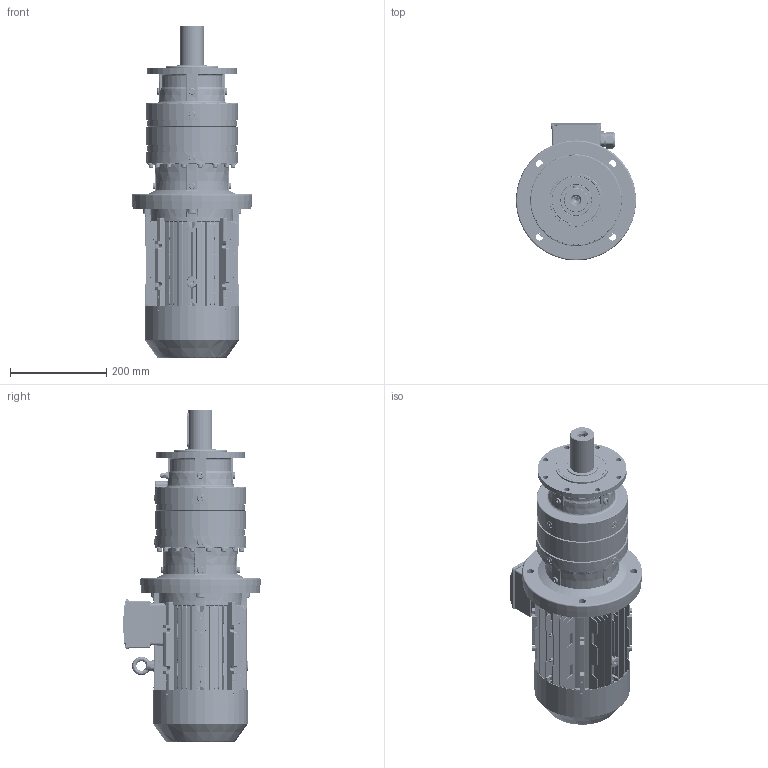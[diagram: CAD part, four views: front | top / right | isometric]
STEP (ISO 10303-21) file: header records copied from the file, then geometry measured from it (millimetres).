
FILE_DESCRIPTION (( 'STEP AP203' ), '1' );
FILE_NAME ('PVL-1102L-MX100L-4.STEP', '2019-05-17T07:24:37', ( '' ), ( '' ), 'SwSTEP 2.0', 'SolidWorks 2012', '' );
FILE_SCHEMA (( 'CONFIG_CONTROL_DESIGN' ));
Products named in the file (19): P11; PVL-1102L-MX100L-4; IE3 100 shaft cover; MX3-100L_B5; plain parallel keys_GB_CONNECTING_PIECE_KEYS_CSK 8X50; IE3 100 B5 flange; IE3 100 terminal box cover; IE3 100 fan cover; IE3 100 fan; IE3 100 B3 Shield; IE3 100 terminal box base; eyebolts gb_GB_FASTENER_SCREWS_FRS M8-N; IE3 100 Shaft; FL1A; PNL_1102L_0_0_A10_B5_ML7A_FL1A_0_0_0_0_0_0_0_0_0_0_0_M1; EK1102L; IE3 100 casing; 11100B5; ML7A
Assembly tree (19 placements, depth 3):
  PVL-1102L-MX100L-4
    PNL_1102L_0_0_A10_B5_ML7A_FL1A_0_0_0_0_0_0_0_0_0_0_0_M1
      P11
      11100B5
      ML7A
      EK1102L
      FL1A
    MX3-100L_B5
      IE3 100 casing
      IE3 100 B3 Shield
      IE3 100 Shaft
      eyebolts gb_GB_FASTENER_SCREWS_FRS M8-N
      IE3 100 terminal box base
      IE3 100 terminal box cover
      IE3 100 fan
      IE3 100 fan cover
      plain parallel keys_GB_CONNECTING_PIECE_KEYS_CSK 8X50
      IE3 100 shaft cover  x2
      IE3 100 B5 flange
Bounding box: 250 x 285 x 690.01 mm (x, y, z)
Volume: 8441497.5 mm3; surface area: 1614494.3 mm2
Topology: 22 solids, 24 shells, 6180 faces, 15690 edges, 9548 vertices
Faces by surface type: plane 1994, bspline 1630, cylinder 1570, cone 502, torus 392, sphere 92
Entity records: 249818 total; most frequent: CARTESIAN_POINT 113120, ORIENTED_EDGE 30674, DIRECTION 24677, EDGE_CURVE 15337, VERTEX_POINT 9440, AXIS2_PLACEMENT_3D 9220, EDGE_LOOP 6683, VECTOR 6237
